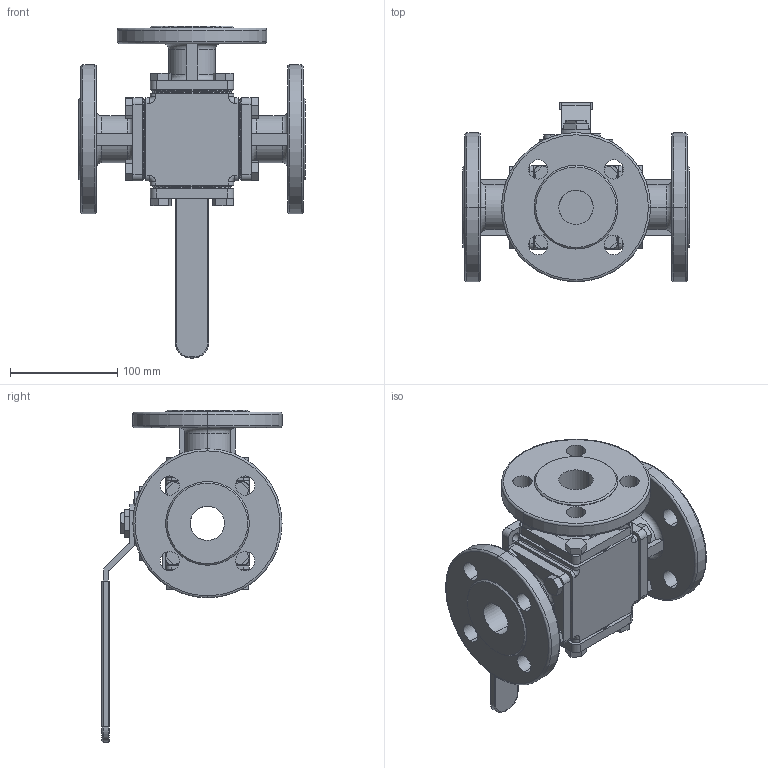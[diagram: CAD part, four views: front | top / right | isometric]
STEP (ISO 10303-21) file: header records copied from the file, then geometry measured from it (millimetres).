
FILE_DESCRIPTION (( 'STEP AP214' ), '1' );
FILE_NAME ('S316D DN32 HB.step', '2011-04-20T13:24:39', ( '' ), ( '' ), 'SwSTEP 2.0', 'SolidWorks 2011', '' );
FILE_SCHEMA (( 'AUTOMOTIVE_DESIGN' ));
Length unit declared in the file: millimetre
Products named in the file (7): S316D Flange end DN32; S316D Blindflens DN32; Hex Nut Style 1 GradeAB_DIN_Hexagon Nut ISO 4032 - M6 - D - N; Socket Head Cap Screw_DIN_DIN 912 M6 x 16 --- 16N; S316D Hendel DN32; S316D KK DN32 PN16; S316D DN32 HB
Assembly tree (8 placements, depth 2):
  S316D DN32 HB
    S316D KK DN32 PN16
    S316D Flange end DN32  x3
    S316D Blindflens DN32
    Hex Nut Style 1 GradeAB_DIN_Hexagon Nut ISO 4032 - M6 - D - N
    Socket Head Cap Screw_DIN_DIN 912 M6 x 16 --- 16N
    S316D Hendel DN32
Bounding box: 211.2 x 167.75 x 309.35 mm (x, y, z)
Volume: 1582745.6 mm3; surface area: 299597 mm2
Topology: 8 solids, 9 shells, 634 faces, 1583 edges, 1003 vertices
Faces by surface type: plane 360, cylinder 192, cone 42, torus 40
Entity records: 14811 total; most frequent: CARTESIAN_POINT 2733, DIRECTION 2501, ORIENTED_EDGE 2350, EDGE_CURVE 1175, AXIS2_PLACEMENT_3D 895, VERTEX_POINT 739, VECTOR 711, LINE 711
